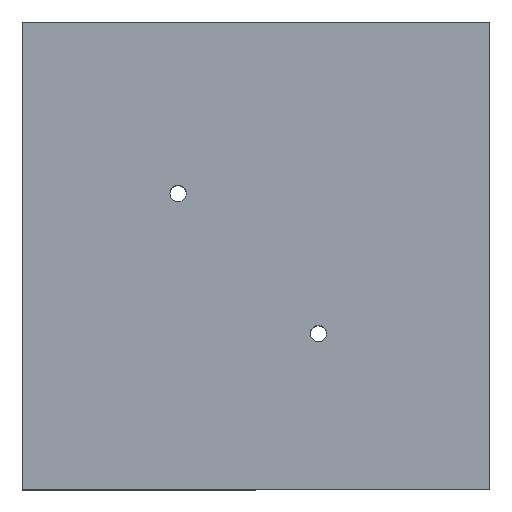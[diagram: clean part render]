
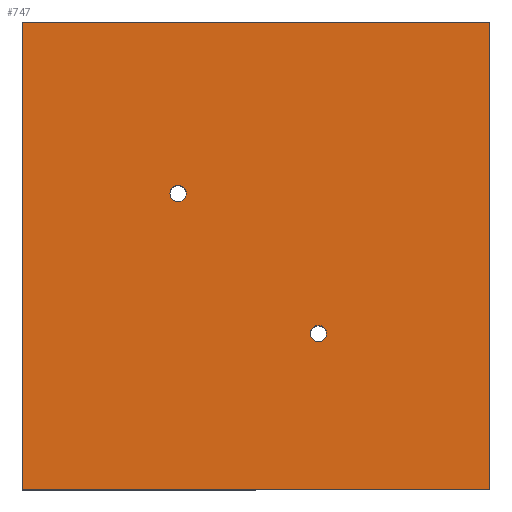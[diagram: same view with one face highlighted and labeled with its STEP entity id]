
A CAD part, top view. The second image highlights one B-rep face of the part: STEP entity #747.
In plain terms, the highlighted planar face has unit normal (0, 0, 1).
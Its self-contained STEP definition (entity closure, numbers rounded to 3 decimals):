
#40 = DIRECTION ( 'NONE',  ( 0., 1., 0. ) ) ;
#41 = CIRCLE ( 'NONE', #522, 1. ) ;
#47 = ORIENTED_EDGE ( 'NONE', *, *, #368, .T. ) ;
#48 = FACE_BOUND ( 'NONE', #362, .T. ) ;
#56 = CARTESIAN_POINT ( 'NONE',  ( -28.5, -28.5, 17.5 ) ) ;
#65 = CARTESIAN_POINT ( 'NONE',  ( -10.5, 7.6, 17.5 ) ) ;
#74 = EDGE_CURVE ( 'NONE', #781, #672, #1141, .T. ) ;
#77 = CARTESIAN_POINT ( 'NONE',  ( -28.5, -28.5, 17.5 ) ) ;
#81 = CARTESIAN_POINT ( 'NONE',  ( 7.6, -9.5, 17.5 ) ) ;
#83 = EDGE_CURVE ( 'NONE', #851, #1174, #41, .T. ) ;
#91 = DIRECTION ( 'NONE',  ( 1., 0., 0. ) ) ;
#95 = CIRCLE ( 'NONE', #928, 1. ) ;
#217 = ORIENTED_EDGE ( 'NONE', *, *, #1042, .F. ) ;
#218 = CARTESIAN_POINT ( 'NONE',  ( 28.5, 28.5, 17.5 ) ) ;
#220 = CARTESIAN_POINT ( 'NONE',  ( 8.6, -9.5, 17.5 ) ) ;
#239 = LINE ( 'NONE', #501, #618 ) ;
#254 = CARTESIAN_POINT ( 'NONE',  ( -8.5, 7.6, 17.5 ) ) ;
#264 = DIRECTION ( 'NONE',  ( 1., 0., 0. ) ) ;
#308 = CARTESIAN_POINT ( 'NONE',  ( -28.5, 28.5, 17.5 ) ) ;
#319 = PLANE ( 'NONE',  #1217 ) ;
#354 = DIRECTION ( 'NONE',  ( 0., 0., 1. ) ) ;
#362 = EDGE_LOOP ( 'NONE', ( #1206, #705 ) ) ;
#368 = EDGE_CURVE ( 'NONE', #1157, #791, #1161, .T. ) ;
#406 = VECTOR ( 'NONE', #40, 1000. ) ;
#412 = DIRECTION ( 'NONE',  ( 0., -1., 0. ) ) ;
#414 = CARTESIAN_POINT ( 'NONE',  ( 7.6, -9.5, 17.5 ) ) ;
#417 = FACE_BOUND ( 'NONE', #858, .T. ) ;
#420 = DIRECTION ( 'NONE',  ( 1., 0., 0. ) ) ;
#453 = CARTESIAN_POINT ( 'NONE',  ( 28.5, -28.5, 17.5 ) ) ;
#459 = CIRCLE ( 'NONE', #1155, 1. ) ;
#501 = CARTESIAN_POINT ( 'NONE',  ( -28.5, 28.5, 17.5 ) ) ;
#508 = CARTESIAN_POINT ( 'NONE',  ( 0., 0., 17.5 ) ) ;
#522 = AXIS2_PLACEMENT_3D ( 'NONE', #634, #824, #91 ) ;
#552 = ORIENTED_EDGE ( 'NONE', *, *, #704, .T. ) ;
#599 = DIRECTION ( 'NONE',  ( 0., 0., 1. ) ) ;
#609 = DIRECTION ( 'NONE',  ( 1., 0., 0. ) ) ;
#618 = VECTOR ( 'NONE', #880, 1000. ) ;
#634 = CARTESIAN_POINT ( 'NONE',  ( -9.5, 7.6, 17.5 ) ) ;
#672 = VERTEX_POINT ( 'NONE', #220 ) ;
#680 = LINE ( 'NONE', #56, #1117 ) ;
#693 = ORIENTED_EDGE ( 'NONE', *, *, #74, .F. ) ;
#704 = EDGE_CURVE ( 'NONE', #805, #1038, #864, .T. ) ;
#705 = ORIENTED_EDGE ( 'NONE', *, *, #83, .F. ) ;
#739 = AXIS2_PLACEMENT_3D ( 'NONE', #81, #354, #264 ) ;
#740 = EDGE_CURVE ( 'NONE', #1038, #1157, #239, .T. ) ;
#747 = ADVANCED_FACE ( 'NONE', ( #48, #417, #1172 ), #319, .T. ) ;
#781 = VERTEX_POINT ( 'NONE', #1212 ) ;
#785 = DIRECTION ( 'NONE',  ( 0., 0., 1. ) ) ;
#791 = VERTEX_POINT ( 'NONE', #77 ) ;
#805 = VERTEX_POINT ( 'NONE', #453 ) ;
#814 = VECTOR ( 'NONE', #412, 1000. ) ;
#824 = DIRECTION ( 'NONE',  ( 0., 0., 1. ) ) ;
#851 = VERTEX_POINT ( 'NONE', #65 ) ;
#858 = EDGE_LOOP ( 'NONE', ( #217, #693 ) ) ;
#862 = DIRECTION ( 'NONE',  ( 1., 0., 0. ) ) ;
#864 = LINE ( 'NONE', #1079, #406 ) ;
#878 = CARTESIAN_POINT ( 'NONE',  ( -9.5, 7.6, 17.5 ) ) ;
#880 = DIRECTION ( 'NONE',  ( -1., 0., 0. ) ) ;
#886 = DIRECTION ( 'NONE',  ( 0., 0., 1. ) ) ;
#928 = AXIS2_PLACEMENT_3D ( 'NONE', #878, #599, #862 ) ;
#950 = ORIENTED_EDGE ( 'NONE', *, *, #1112, .T. ) ;
#986 = DIRECTION ( 'NONE',  ( 1., 0., 0. ) ) ;
#992 = ORIENTED_EDGE ( 'NONE', *, *, #740, .T. ) ;
#1038 = VERTEX_POINT ( 'NONE', #218 ) ;
#1042 = EDGE_CURVE ( 'NONE', #672, #781, #459, .T. ) ;
#1079 = CARTESIAN_POINT ( 'NONE',  ( 28.5, 28.5, 17.5 ) ) ;
#1082 = EDGE_CURVE ( 'NONE', #1174, #851, #95, .T. ) ;
#1112 = EDGE_CURVE ( 'NONE', #791, #805, #680, .T. ) ;
#1117 = VECTOR ( 'NONE', #420, 1000. ) ;
#1141 = CIRCLE ( 'NONE', #739, 1. ) ;
#1155 = AXIS2_PLACEMENT_3D ( 'NONE', #414, #785, #986 ) ;
#1157 = VERTEX_POINT ( 'NONE', #1175 ) ;
#1161 = LINE ( 'NONE', #308, #814 ) ;
#1162 = EDGE_LOOP ( 'NONE', ( #47, #950, #552, #992 ) ) ;
#1172 = FACE_OUTER_BOUND ( 'NONE', #1162, .T. ) ;
#1174 = VERTEX_POINT ( 'NONE', #254 ) ;
#1175 = CARTESIAN_POINT ( 'NONE',  ( -28.5, 28.5, 17.5 ) ) ;
#1206 = ORIENTED_EDGE ( 'NONE', *, *, #1082, .F. ) ;
#1212 = CARTESIAN_POINT ( 'NONE',  ( 6.6, -9.5, 17.5 ) ) ;
#1217 = AXIS2_PLACEMENT_3D ( 'NONE', #508, #886, #609 ) ;
